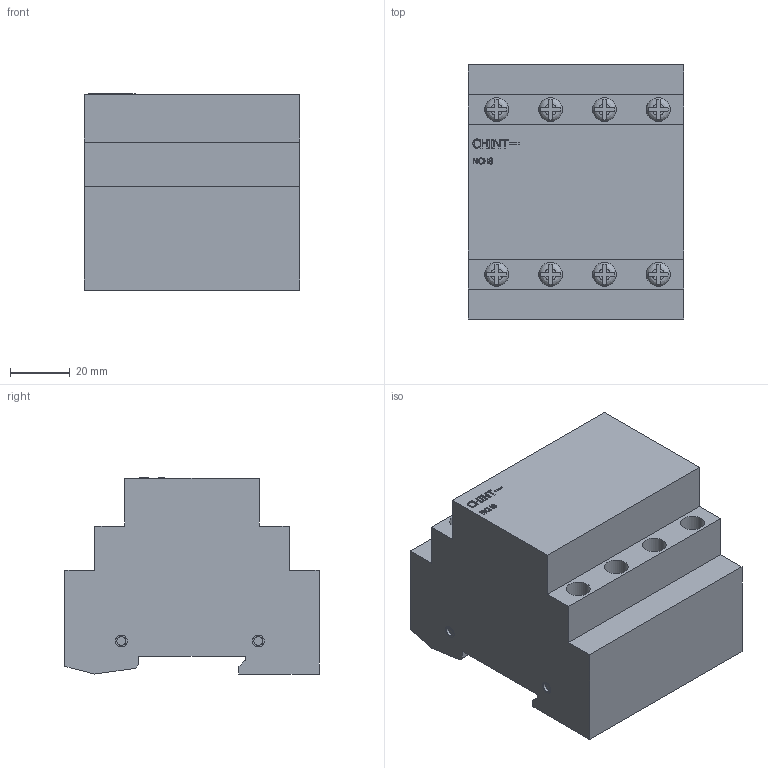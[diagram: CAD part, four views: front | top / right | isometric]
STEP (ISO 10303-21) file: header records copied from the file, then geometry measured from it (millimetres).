
FILE_DESCRIPTION(/* description */ (''),/* implementation_level */ '2;1');
FILE_NAME(/* name */ 'D:\CHINT\NCH8\Мод. контактор NCH8 4P (CHINT).stp',/* time_stamp */ '2017-09-30T14:23:23+04:00',/* author */ ('RSagdiev'),/* organization */ (''),/* preprocessor_version */ 'ST-DEVELOPER v16.5',/* originating_system */ 'Autodesk Inventor 2017',/* authorisation */ '');
FILE_SCHEMA (('AUTOMOTIVE_DESIGN { 1 0 10303 214 3 1 1 }'));
Length unit declared in the file: millimetre
Products named in the file (1): Мод. \X2\043A043E043D04420430043A0442
043E0440\X0\ NCH8 4P (CHINT)
Bounding box: 72 x 85 x 65.6 mm (x, y, z)
Surface area: 68961.9 mm2
Topology: 26 solids, 38 shells, 463 faces, 1053 edges, 702 vertices
Faces by surface type: plane 328, cylinder 76, bspline 59
Full cylindrical faces by diameter (mm): 3 x16, 4 x36, 8 x24
Entity records: 13451 total; most frequent: CARTESIAN_POINT 3506, ORIENTED_EDGE 1954, DIRECTION 1845, EDGE_CURVE 977, VERTEX_POINT 702, AXIS2_PLACEMENT_3D 637, EDGE_LOOP 607, LINE 571
